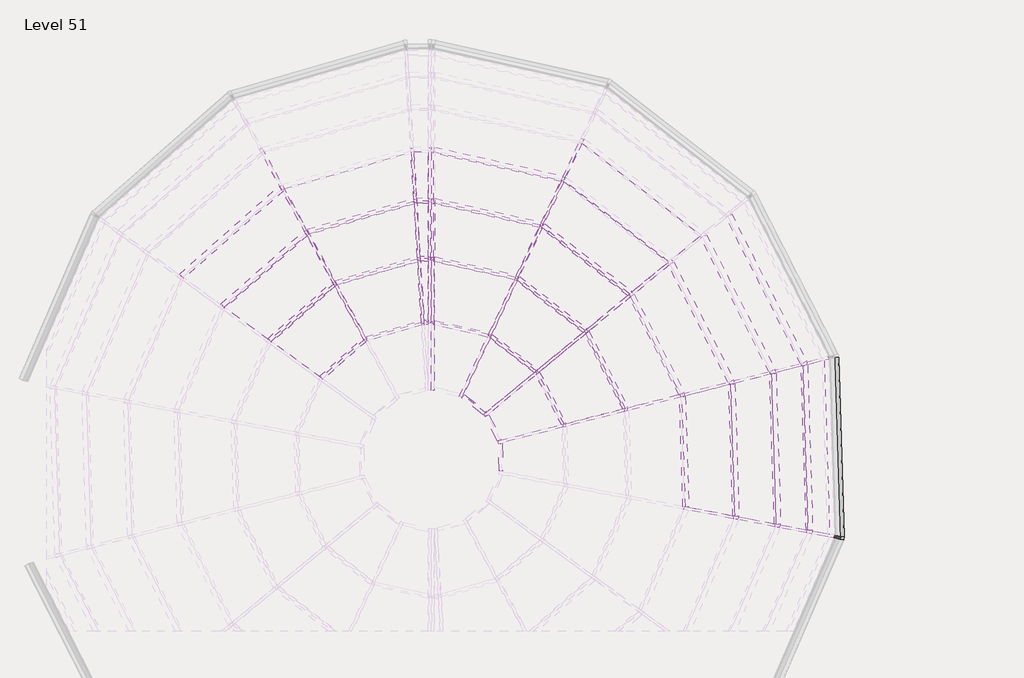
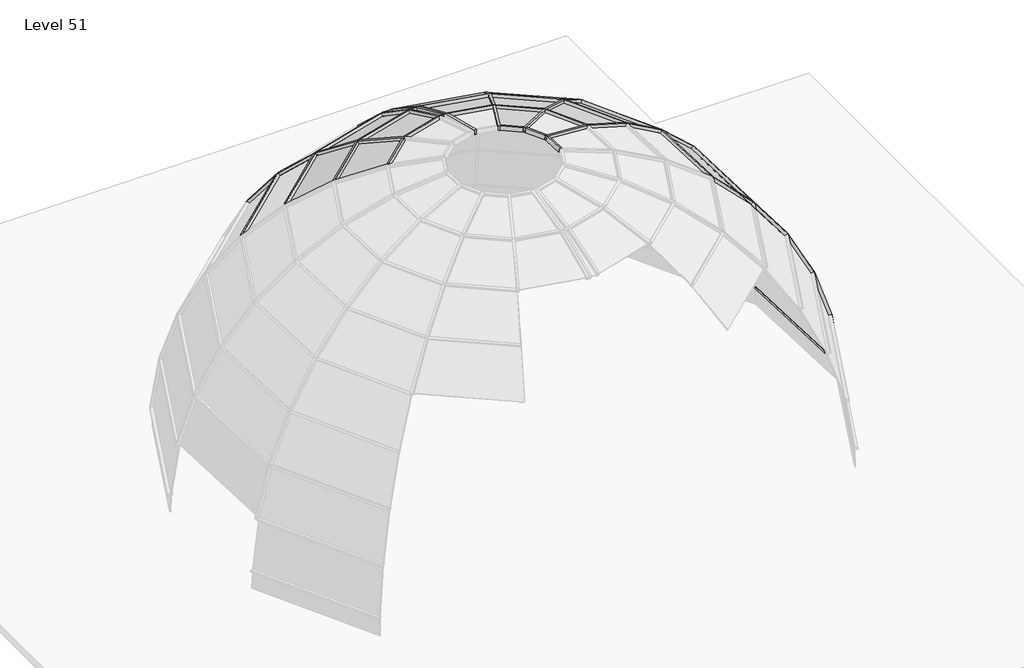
# One storey, part 4 of 5: 65 members, 22 plates.
"""IFC4 building model written with IfcOpenShell, lengths in millimetres."""

from ifc_helpers import new_model, si_unit, origin, place, context, project, spatial, transform, mapped, element, save
from components import member_d183bd50, member_4ad3c4be, member_d9f9b3f1, member_ae036e1e, member_bd7755a3, member_65743db0, member_8796500f, member_d21742c5, member_627e65e0, member_8f2bf440, member_7aba495a, member_8cadeb42, member_01029f2d, member_d292a8f8, member_6dba6968, member_1612663b, member_5eaec6db, member_043ce83e, member_1f719ff4, member_3d2e33c7, member_de41bbd8, member_34720ac7, member_73d42494, member_53f4afea, system_panel_glazed_b6fcacd0, system_panel_glazed_fa418351, system_panel_glazed_b3b66b1f, system_panel_glazed_ead5900b, system_panel_glazed_748e87ae, system_panel_glazed_0b4b9341, system_panel_glazed_03609b2e, system_panel_glazed_facd528d, system_panel_glazed_891999a5, system_panel_glazed_df0c418a, system_panel_glazed_cbcbf4f6, system_panel_glazed_e82b84bd, system_panel_glazed_11359935

model = new_model("IFC4")

# Units and contexts
model_context = context("Model", 3, world=origin())
ifc_project = project(units=[si_unit("LENGTHUNIT", "METRE", prefix="MILLI")], contexts=[model_context])

# Site, building, storey
site = spatial("IfcSite", under=ifc_project)
building = spatial("IfcBuilding", under=site)
storey = spatial("IfcBuildingStorey", under=building, Name="Level 51", Elevation=152400.0)

# Members
placement = place(None, origin())
member_shape = member_d183bd50(model_context)
element("IfcMember", 1, ObjectType="Rectangular Mullion : 2.5\" x 5\" rectangular", at=placement, inside=storey, context=model_context, shape_type="MappedRepresentation", body=[
    mapped(member_shape, transform((12476.5992898, -7871.4852016, 153025.5719668), x_axis=(0.07006123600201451, 0.00216421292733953, -0.9975403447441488), y_axis=(0.9970647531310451, 0.030799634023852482, 0.07009465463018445), z_axis=(0.03087557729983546, -0.9995232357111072, 0.0))),
])
member_2_shape = member_4ad3c4be(model_context)
element("IfcMember", 2, ObjectType="Rectangular Mullion : 2.5\" x 5\" rectangular", at=placement, inside=storey, context=model_context, shape_type="MappedRepresentation", body=[
    mapped(member_2_shape, transform((11082.3696806, -7604.6373542, 157327.0596321), x_axis=(0.547910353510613, 0.016925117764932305, -0.8363658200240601), y_axis=(0.8359670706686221, 0.025823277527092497, 0.5481717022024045), z_axis=(0.030875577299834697, -0.9995232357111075, 0.0))),
])
element("IfcMember", 3, ObjectType="Rectangular Mullion : 2.5\" x 5\" rectangular", at=placement, inside=storey, context=model_context, shape_type="MappedRepresentation", body=[
    mapped(member_2_shape, transform((10965.1465515, -4247.7979659, 157327.0596321), x_axis=(0.48851970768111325, 0.24867792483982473, -0.8363658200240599), y_axis=(0.7453525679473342, 0.3794170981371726, 0.5481717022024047), z_axis=(0.4536496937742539, -0.8911800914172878, 0.0))),
])
member_3_shape = member_d9f9b3f1(model_context)
element("IfcMember", 4, ObjectType="Rectangular Mullion : 2.5\" x 5\" rectangular", at=placement, inside=storey, context=model_context, shape_type="MappedRepresentation", body=[
    mapped(member_3_shape, transform((11654.2134814, -4071.2127046, 155979.2538554), x_axis=(0.35608952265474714, 0.18126516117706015, -0.9167023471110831), y_axis=(0.8169468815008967, 0.4158617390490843, 0.3995707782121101), z_axis=(0.4536496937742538, -0.8911800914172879, 0.0))),
])
element("IfcMember", 5, ObjectType="Rectangular Mullion : 2.5\" x 5\" rectangular", at=placement, inside=storey, context=model_context, shape_type="MappedRepresentation", body=[
    mapped(member_3_shape, transform((11781.0219787, -7738.3555457, 155979.2538554), x_axis=(0.39938027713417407, 0.012336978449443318, -0.9167023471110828), y_axis=(0.9162652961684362, 0.028303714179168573, 0.39957077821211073), z_axis=(0.030875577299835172, -0.9995232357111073, 0.0))),
])
member_4_shape = member_ae036e1e(model_context)
element("IfcMember", 6, ObjectType="Rectangular Mullion : 2.5\" x 5\" rectangular", at=placement, inside=storey, context=model_context, shape_type="MappedRepresentation", body=[
    mapped(member_4_shape, transform((4191.8185999, -4828.9449578, 161416.1055894), x_axis=(-0.5929825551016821, -0.7641063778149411, 0.2539943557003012), y_axis=(0.15572098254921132, 0.20065918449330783, 0.9672057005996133), z_axis=(-0.7900143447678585, 0.613088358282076, 0.0))),
])
element("IfcMember", 7, ObjectType="Rectangular Mullion : 2.5\" x 5\" rectangular", at=placement, inside=storey, context=model_context, shape_type="MappedRepresentation", body=[
    mapped(member_4_shape, transform((4706.5997856, -5245.5566832, 161416.1055894), x_axis=(-0.8619544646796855, -0.43877256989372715, 0.25399435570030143), y_axis=(0.22635471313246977, 0.11522446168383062, 0.9672057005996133), z_axis=(-0.45364969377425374, 0.8911800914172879, 0.0))),
])
element("IfcMember", 8, ObjectType="Rectangular Mullion : 2.5\" x 5\" rectangular", at=placement, inside=storey, context=model_context, shape_type="MappedRepresentation", body=[
    mapped(member_4_shape, transform((4994.9118796, -5841.7455253, 161416.1055894), x_axis=(-0.9667445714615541, -0.029863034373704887, 0.2539943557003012), y_axis=(0.253873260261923, 0.007842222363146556, 0.9672057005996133), z_axis=(-0.030875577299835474, 0.9995232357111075, 0.0))),
])
member_5_shape = member_bd7755a3(model_context)
element("IfcMember", 9, ObjectType="Rectangular Mullion : 2.5\" x 5\" rectangular", at=placement, inside=storey, context=model_context, shape_type="MappedRepresentation", body=[
    mapped(member_5_shape, transform((3137.5375649, -543.8081974, 159578.4455769), x_axis=(-0.2202924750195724, 0.7610756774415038, -0.6101106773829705), y_axis=(-0.16963276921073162, 0.5860544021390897, 0.7923162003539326), z_axis=(0.9605706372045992, 0.27803606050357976, 0.0))),
])
element("IfcMember", 10, ObjectType="Rectangular Mullion : 2.5\" x 5\" rectangular", at=placement, inside=storey, context=model_context, shape_type="MappedRepresentation", body=[
    mapped(member_5_shape, transform((769.6329283, -1243.2734299, 159578.4455769), x_axis=(-0.5234678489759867, 0.5947658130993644, -0.6101106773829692), y_axis=(-0.40308821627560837, 0.45799009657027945, 0.7923162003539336), z_axis=(0.7506672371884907, 0.6606804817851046, 0.0))),
])
element("IfcMember", 11, ObjectType="Rectangular Mullion : 2.5\" x 5\" rectangular", at=placement, inside=storey, context=model_context, shape_type="MappedRepresentation", body=[
    mapped(member_5_shape, transform((7857.965234, -2559.7380301, 159578.4455769), x_axis=(0.48575983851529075, 0.6259411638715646, -0.6101106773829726), y_axis=(0.37405175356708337, 0.4819961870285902, 0.7923162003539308), z_axis=(0.7900143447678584, -0.6130883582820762, 0.0))),
])
element("IfcMember", 12, ObjectType="Rectangular Mullion : 2.5\" x 5\" rectangular", at=placement, inside=storey, context=model_context, shape_type="MappedRepresentation", body=[
    mapped(member_5_shape, transform((8990.0850156, -4753.94148, 159578.4455769), x_axis=(0.7060964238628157, 0.3594340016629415, -0.6101106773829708), y_axis=(0.5437184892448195, 0.2767765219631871, 0.7923162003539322), z_axis=(0.45364969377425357, -0.8911800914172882, 0.0))),
])
element("IfcMember", 13, ObjectType="Rectangular Mullion : 2.5\" x 5\" rectangular", at=placement, inside=storey, context=model_context, shape_type="MappedRepresentation", body=[
    mapped(member_5_shape, transform((9079.8337569, -7221.3630376, 159578.4455769), x_axis=(0.7919384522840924, 0.024463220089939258, -0.6101106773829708), y_axis=(0.6098197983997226, 0.018837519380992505, 0.7923162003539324), z_axis=(0.030875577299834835, -0.9995232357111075, 0.0))),
])
member_6_shape = member_65743db0(model_context)
element("IfcMember", 14, ObjectType="Rectangular Mullion : 2.5\" x 5\" rectangular", at=placement, inside=storey, context=model_context, shape_type="MappedRepresentation", body=[
    mapped(member_6_shape, transform((5899.1162754, -1056.6962021, 159578.4455769), x_axis=(0.17289756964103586, 0.7732214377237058, -0.6101106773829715), y_axis=(0.13313706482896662, 0.5954070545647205, 0.7923162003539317), z_axis=(0.9759000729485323, -0.21821789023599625, 0.0))),
])
member_7_shape = member_8796500f(model_context)
element("IfcMember", 15, ObjectType="Rectangular Mullion : 2.5\" x 5\" rectangular", at=placement, inside=storey, context=model_context, shape_type="MappedRepresentation", body=[
    mapped(member_7_shape, transform((3454.1673289, -1797.056848, 160419.4872466), x_axis=(-0.027081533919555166, 0.876700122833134, -0.48027438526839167), y_axis=(-0.014828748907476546, 0.48004540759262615, 0.8771183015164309), z_axis=(0.9995232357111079, 0.03087557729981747, 0.0))),
])
member_8_shape = member_d21742c5(model_context)
element("IfcMember", 16, ObjectType="Rectangular Mullion : 2.5\" x 5\" rectangular", at=placement, inside=storey, context=model_context, shape_type="MappedRepresentation", body=[
    mapped(member_8_shape, transform((3215.9806162, -1812.3000569, 160419.4872466), x_axis=(-0.2451950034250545, 0.8471099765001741, -0.47147014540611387), y_axis=(-0.13108570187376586, 0.45288037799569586, 0.8818820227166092), z_axis=(0.9605706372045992, 0.2780360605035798, 0.0))),
])
element("IfcMember", 17, ObjectType="Rectangular Mullion : 2.5\" x 5\" rectangular", at=placement, inside=storey, context=model_context, shape_type="MappedRepresentation", body=[
    mapped(member_8_shape, transform((1380.8783608, -2357.5462561, 160419.4872466), x_axis=(-0.5826422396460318, 0.6619999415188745, -0.47147014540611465), y_axis=(-0.31149112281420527, 0.3539171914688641, 0.8818820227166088), z_axis=(0.7506672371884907, 0.6606804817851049, 0.0))),
])
element("IfcMember", 18, ObjectType="Rectangular Mullion : 2.5\" x 5\" rectangular", at=placement, inside=storey, context=model_context, shape_type="MappedRepresentation", body=[
    mapped(member_8_shape, transform((6878.4605831, -3369.5500754, 160419.4872466), x_axis=(0.5406716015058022, 0.6966994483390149, -0.4714701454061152), y_axis=(0.289052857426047, 0.37246817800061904, 0.8818820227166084), z_axis=(0.7900143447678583, -0.6130883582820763, 0.0))),
])
element("IfcMember", 19, ObjectType="Rectangular Mullion : 2.5\" x 5\" rectangular", at=placement, inside=storey, context=model_context, shape_type="MappedRepresentation", body=[
    mapped(member_8_shape, transform((7758.95323, -5069.4401907, 160419.4872466), x_axis=(0.7859157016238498, 0.4000655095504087, -0.4714701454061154), y_axis=(0.4201648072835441, 0.21388228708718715, 0.8818820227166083), z_axis=(0.4536496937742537, -0.891180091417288, 0.0))),
])
member_9_shape = member_627e65e0(model_context)
element("IfcMember", 20, ObjectType="Rectangular Mullion : 2.5\" x 5\" rectangular", at=placement, inside=storey, context=model_context, shape_type="MappedRepresentation", body=[
    mapped(member_9_shape, transform((5357.8110736, -2206.5716686, 160419.4872466), x_axis=(0.1924424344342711, 0.8606287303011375, -0.4714701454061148), y_axis=(0.1028832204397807, 0.46010774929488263, 0.8818820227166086), z_axis=(0.9759000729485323, -0.21821789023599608, 0.0))),
])
member_10_shape = member_8f2bf440(model_context)
element("IfcMember", 21, ObjectType="Rectangular Mullion : 2.5\" x 5\" rectangular", at=placement, inside=storey, context=model_context, shape_type="MappedRepresentation", body=[
    mapped(member_10_shape, transform((3301.955843, -3202.5936978, 161037.7653816), x_axis=(-0.2633191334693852, 0.9097259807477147, -0.32103220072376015), y_axis=(-0.08925852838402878, 0.30837410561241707, 0.9470682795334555), z_axis=(0.960570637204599, 0.2780360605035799, 0.0))),
])
element("IfcMember", 22, ObjectType="Rectangular Mullion : 2.5\" x 5\" rectangular", at=placement, inside=storey, context=model_context, shape_type="MappedRepresentation", body=[
    mapped(member_10_shape, transform((2050.8161546, -3578.8126071, 161037.7653816), x_axis=(-0.6257095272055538, 0.7109331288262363, -0.32103220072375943), y_axis=(-0.2120997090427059, 0.2409883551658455, 0.9470682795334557), z_axis=(0.7506672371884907, 0.660680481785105, 0.0))),
])
element("IfcMember", 23, ObjectType="Rectangular Mullion : 2.5\" x 5\" rectangular", at=placement, inside=storey, context=model_context, shape_type="MappedRepresentation", body=[
    mapped(member_10_shape, transform((6409.6070125, -5415.2333845, 161037.7653816), x_axis=(0.8440083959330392, 0.42963723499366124, -0.3210322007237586), y_axis=(0.28609750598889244, 0.14563615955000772, 0.9470682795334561), z_axis=(0.45364969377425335, -0.8911800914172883, 0.0))),
])
element("IfcMember", 24, ObjectType="Rectangular Mullion : 2.5\" x 5\" rectangular", at=placement, inside=storey, context=model_context, shape_type="MappedRepresentation", body=[
    mapped(member_10_shape, transform((5804.9029743, -4257.121035, 161037.7653816), x_axis=(0.580636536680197, 0.7481975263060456, -0.32103220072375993), y_axis=(0.19682110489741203, 0.25362004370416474, 0.9470682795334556), z_axis=(0.7900143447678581, -0.6130883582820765, 0.0))),
])
member_11_shape = member_7aba495a(model_context)
element("IfcMember", 25, ObjectType="Rectangular Mullion : 2.5\" x 5\" rectangular", at=placement, inside=storey, context=model_context, shape_type="MappedRepresentation", body=[
    mapped(member_11_shape, transform((4764.5292371, -3466.8592589, 161037.7653816), x_axis=(0.20666724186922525, 0.92424400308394, -0.321032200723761), y_axis=(0.07005496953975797, 0.31329534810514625, 0.9470682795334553), z_axis=(0.9759000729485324, -0.2182178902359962, 0.0))),
])
member_12_shape = member_8cadeb42(model_context)
element("IfcMember", 26, ObjectType="Rectangular Mullion : 2.5\" x 5\" rectangular", at=placement, inside=storey, context=model_context, shape_type="MappedRepresentation", body=[
    mapped(member_12_shape, transform((3454.1673289, -3190.0062899, 161037.7653816), x_axis=(-0.02916772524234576, 0.9442355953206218, -0.32797619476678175), y_axis=(-0.010126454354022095, 0.3278198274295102, 0.944685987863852), z_axis=(0.9995232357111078, 0.03087557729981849, 0.0))),
])
member_13_shape = member_01029f2d(model_context)
element("IfcMember", 27, ObjectType="Rectangular Mullion : 2.5\" x 5\" rectangular", at=placement, inside=storey, context=model_context, shape_type="MappedRepresentation", body=[
    mapped(member_13_shape, transform((234.058897, -266.9461516, 158538.0026411), x_axis=(-0.4494061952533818, 0.5106167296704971, -0.7330106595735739), y_axis=(-0.48428583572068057, 0.5502470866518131, 0.6802171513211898), z_axis=(0.7506672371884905, 0.6606804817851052, 0.0))),
])
element("IfcMember", 28, ObjectType="Rectangular Mullion : 2.5\" x 5\" rectangular", at=placement, inside=storey, context=model_context, shape_type="MappedRepresentation", body=[
    mapped(member_13_shape, transform((10068.8042639, -4477.5011053, 158538.0026411), x_axis=(0.6061959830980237, 0.3085803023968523, -0.7330106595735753), y_axis=(0.6532445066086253, 0.3325300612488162, 0.6802171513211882), z_axis=(0.45364969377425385, -0.8911800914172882, 0.0))),
])
element("IfcMember", 29, ObjectType="Rectangular Mullion : 2.5\" x 5\" rectangular", at=placement, inside=storey, context=model_context, shape_type="MappedRepresentation", body=[
    mapped(member_13_shape, transform((10173.5586901, -7430.6959496, 158538.0026411), x_axis=(0.6798928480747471, 0.021002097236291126, -0.7330106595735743), y_axis=(0.7326611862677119, 0.022632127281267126, 0.6802171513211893), z_axis=(0.030875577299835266, -0.9995232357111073, 0.0))),
])
member_14_shape = member_d292a8f8(model_context)
element("IfcMember", 30, ObjectType="Rectangular Mullion : 2.5\" x 5\" rectangular", at=placement, inside=storey, context=model_context, shape_type="MappedRepresentation", body=[
    mapped(member_14_shape, transform((3454.1673289, -526.1418588, 159578.4455769), x_axis=(-0.02424313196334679, 0.7848136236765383, -0.619257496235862), y_axis=(-0.019119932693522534, 0.618962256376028, 0.7851879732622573), z_axis=(0.9995232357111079, 0.03087557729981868, 0.0))),
])
member_15_shape = member_6dba6968(model_context)
element("IfcMember", 31, ObjectType="Rectangular Mullion : 2.5\" x 5\" rectangular", at=placement, inside=storey, context=model_context, shape_type="MappedRepresentation", body=[
    mapped(member_15_shape, transform((6373.408587, -49.1738447, 158538.0026411), x_axis=(0.14843555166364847, 0.6638239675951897, -0.733010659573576), y_axis=(0.15995603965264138, 0.7153451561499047, 0.6802171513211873), z_axis=(0.9759000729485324, -0.21821789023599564, 0.0))),
])
member_16_shape = member_1612663b(model_context)
element("IfcMember", 32, ObjectType="Rectangular Mullion : 2.5\" x 5\" rectangular", at=placement, inside=storey, context=model_context, shape_type="MappedRepresentation", body=[
    mapped(member_16_shape, transform((2074.6498393, -3557.8360018, 161037.7653816), x_axis=(0.8767485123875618, 0.48094910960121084, 0.0), y_axis=(-0.19511831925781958, 0.3556918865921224, 0.9140088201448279), z_axis=(0.4395917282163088, -0.8013558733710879, 0.40569431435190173))),
])
element("IfcMember", 33, ObjectType="Rectangular Mullion : 2.5\" x 5\" rectangular", at=placement, inside=storey, context=model_context, shape_type="MappedRepresentation", body=[
    mapped(member_16_shape, transform((1404.7120455, -2336.5696508, 160419.4872466), x_axis=(0.8767485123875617, 0.48094910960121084, 0.0), y_axis=(-0.26541879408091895, 0.48384647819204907, 0.8339337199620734), z_axis=(0.4010796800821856, -0.7311501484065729, 0.5518646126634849))),
])
element("IfcMember", 34, ObjectType="Rectangular Mullion : 2.5\" x 5\" rectangular", at=placement, inside=storey, context=model_context, shape_type="MappedRepresentation", body=[
    mapped(member_16_shape, transform((793.4666131, -1222.2968246, 159578.4455769), x_axis=(0.8767485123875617, 0.4809491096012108, 0.0), y_axis=(-0.32834652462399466, 0.5985608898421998, 0.7306937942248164), z_axis=(0.35142652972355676, -0.6406346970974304, 0.6827053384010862))),
])
element("IfcMember", 35, ObjectType="Rectangular Mullion : 2.5\" x 5\" rectangular", at=placement, inside=storey, context=model_context, shape_type="MappedRepresentation", body=[
    mapped(member_16_shape, transform((257.8925818, -245.9695463, 158538.0026411), x_axis=(0.8767485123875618, 0.48094910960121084, 0.0), y_axis=(-0.3821535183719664, 0.6966486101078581, 0.6071568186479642), z_axis=(0.2920115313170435, -0.5323238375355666, 0.7945820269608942))),
])
element("IfcMember", 36, ObjectType="Rectangular Mullion : 2.5\" x 5\" rectangular", at=placement, inside=storey, context=model_context, shape_type="MappedRepresentation", body=[
    mapped(member_16_shape, transform((3332.4539608, -3193.7660529, 161037.7653816), x_axis=(0.9980933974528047, 0.061721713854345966, 0.0), y_axis=(-0.025040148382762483, 0.4049208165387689, 0.914008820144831), z_axis=(0.056414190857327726, -0.9122661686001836, 0.4056943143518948))),
])
element("IfcMember", 37, ObjectType="Rectangular Mullion : 2.5\" x 5\" rectangular", at=placement, inside=storey, context=model_context, shape_type="MappedRepresentation", body=[
    mapped(member_16_shape, transform((3246.4787339, -1803.472412, 160419.4872466), x_axis=(0.9980933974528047, 0.061721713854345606, 0.0), y_axis=(-0.03406202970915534, 0.5508124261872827, 0.8339337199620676), z_axis=(0.051471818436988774, -0.8323437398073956, 0.5518646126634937))),
])
element("IfcMember", 38, ObjectType="Rectangular Mullion : 2.5\" x 5\" rectangular", at=placement, inside=storey, context=model_context, shape_type="MappedRepresentation", body=[
    mapped(member_16_shape, transform((3168.0356826, -534.9805525, 159578.4455769), x_axis=(0.9980933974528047, 0.06172171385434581, 0.0), y_axis=(-0.04213774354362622, 0.6814036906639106, 0.730693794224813), z_axis=(0.045099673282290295, -0.729300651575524, 0.6827053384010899))),
])
element("IfcMember", 39, ObjectType="Rectangular Mullion : 2.5\" x 5\" rectangular", at=placement, inside=storey, context=model_context, shape_type="MappedRepresentation", body=[
    mapped(member_16_shape, transform((5829.9859298, -4276.5865903, 161037.7653816), x_axis=(0.6371882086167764, -0.7707082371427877, 0.0), y_axis=(0.31267194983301, 0.2585036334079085, 0.9140088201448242), z_axis=(-0.704434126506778, -0.5823956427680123, 0.4056943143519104))),
])
element("IfcMember", 40, ObjectType="Rectangular Mullion : 2.5\" x 5\" rectangular", at=placement, inside=storey, context=model_context, shape_type="MappedRepresentation", body=[
    mapped(member_16_shape, transform((6903.5435386, -3389.0156308, 160419.4872466), x_axis=(0.6371882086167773, -0.770708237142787, 0.0), y_axis=(0.42532660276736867, 0.35164162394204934, 0.8339337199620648), z_axis=(-0.6427195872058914, -0.5313727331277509, 0.551864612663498))),
])
element("IfcMember", 41, ObjectType="Rectangular Mullion : 2.5\" x 5\" rectangular", at=placement, inside=storey, context=model_context, shape_type="MappedRepresentation", body=[
    mapped(member_16_shape, transform((7883.0481895, -2579.2035855, 159578.4455769), x_axis=(0.6371882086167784, -0.770708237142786, 0.0), y_axis=(0.5261666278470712, 0.4350117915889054, 0.7306937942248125), z_axis=(-0.5631517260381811, -0.4655894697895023, 0.6827053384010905))),
])
element("IfcMember", 42, ObjectType="Rectangular Mullion : 2.5\" x 5\" rectangular", at=placement, inside=storey, context=model_context, shape_type="MappedRepresentation", body=[
    mapped(member_16_shape, transform((6424.0103903, -5443.5283524, 161037.7653816), x_axis=(0.24824532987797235, -0.968697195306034, 0.0), y_axis=(0.3929949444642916, 0.10071171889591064, 0.9140088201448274), z_axis=(-0.8853977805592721, -0.22689842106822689, 0.40569431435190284))),
])
element("IfcMember", 43, ObjectType="Rectangular Mullion : 2.5\" x 5\" rectangular", at=placement, inside=storey, context=model_context, shape_type="MappedRepresentation", body=[
    mapped(member_16_shape, transform((7773.3566078, -5097.7351586, 160419.4872466), x_axis=(0.24824532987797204, -0.968697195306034, 0.0), y_axis=(0.5345897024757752, 0.1369978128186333, 0.8339337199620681), z_axis=(-0.8078292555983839, -0.2070201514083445, 0.551864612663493))),
])
element("IfcMember", 44, ObjectType="Rectangular Mullion : 2.5\" x 5\" rectangular", at=placement, inside=storey, context=model_context, shape_type="MappedRepresentation", body=[
    mapped(member_16_shape, transform((9004.4883934, -4782.2364479, 159578.4455769), x_axis=(0.24824532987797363, -0.9686971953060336, 0.0), y_axis=(0.6613347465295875, 0.1694784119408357, 0.7306937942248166), z_axis=(-0.7078210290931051, -0.1813913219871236, 0.6827053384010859))),
])
element("IfcMember", 45, ObjectType="Rectangular Mullion : 2.5\" x 5\" rectangular", at=placement, inside=storey, context=model_context, shape_type="MappedRepresentation", body=[
    mapped(member_16_shape, transform((10083.2076417, -4505.7960732, 158538.0026411), x_axis=(0.2482453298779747, -0.9686971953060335, 0.0), y_axis=(0.7697093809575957, 0.19725127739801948, 0.6071568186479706), z_axis=(-0.5881511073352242, -0.15072384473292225, 0.7945820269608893))),
])
element("IfcMember", 46, ObjectType="Rectangular Mullion : 2.5\" x 5\" rectangular", at=placement, inside=storey, context=model_context, shape_type="MappedRepresentation", body=[
    mapped(member_16_shape, transform((10979.5499293, -4276.0929338, 157327.0596321), x_axis=(0.24824532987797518, -0.9686971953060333, 0.0), y_axis=(0.8567031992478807, 0.21954494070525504, 0.46675437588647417), z_axis=(-0.45214365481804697, -0.11586959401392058, 0.8843869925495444))),
])
element("IfcMember", 47, ObjectType="Rectangular Mullion : 2.5\" x 5\" rectangular", at=placement, inside=storey, context=model_context, shape_type="MappedRepresentation", body=[
    mapped(member_16_shape, transform((11668.6168592, -4099.5076725, 155979.2538554), x_axis=(0.24824532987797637, -0.9686971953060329, 0.0), y_axis=(0.9198997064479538, 0.23574013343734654, 0.3133865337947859), z_axis=(-0.30357665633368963, -0.07779674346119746, 0.9496256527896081))),
])
element("IfcMember", 48, ObjectType="Rectangular Mullion : 2.5\" x 5\" rectangular", at=placement, inside=storey, context=model_context, shape_type="MappedRepresentation", body=[
    mapped(member_16_shape, transform((9080.8140565, -7253.0979003, 159578.4455769), x_axis=(-0.18798237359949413, -0.9821724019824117, 0.0), y_axis=(0.6705343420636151, -0.12833656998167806, 0.7306937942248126), z_axis=(-0.7176672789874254, 0.1373575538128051, 0.6827053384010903))),
])
element("IfcMember", 49, ObjectType="Rectangular Mullion : 2.5\" x 5\" rectangular", at=placement, inside=storey, context=model_context, shape_type="MappedRepresentation", body=[
    mapped(member_16_shape, transform((10174.5389897, -7462.4308123, 158538.0026411), x_axis=(-0.1879823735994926, -0.9821724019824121, 0.0), y_axis=(0.7804165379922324, -0.14936741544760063, 0.6071568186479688), z_axis=(-0.5963326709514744, 0.11413477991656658, 0.7945820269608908))),
])
element("IfcMember", 50, ObjectType="Rectangular Mullion : 2.5\" x 5\" rectangular", at=placement, inside=storey, context=model_context, shape_type="MappedRepresentation", body=[
    mapped(member_16_shape, transform((11083.3499802, -7636.3722169, 157327.0596321), x_axis=(-0.18798237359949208, -0.9821724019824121, 0.0), y_axis=(0.8686204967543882, -0.16624916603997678, 0.46675437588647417), z_axis=(-0.458433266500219, 0.08774159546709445, 0.8843869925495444))),
])
element("IfcMember", 51, ObjectType="Rectangular Mullion : 2.5\" x 5\" rectangular", at=placement, inside=storey, context=model_context, shape_type="MappedRepresentation", body=[
    mapped(member_16_shape, transform((11782.0022783, -7770.0904084, 155979.2538554), x_axis=(-0.18798237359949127, -0.9821724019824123, 0.0), y_axis=(0.9326961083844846, -0.1785128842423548, 0.3133865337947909), z_axis=(-0.3077996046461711, 0.058911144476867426, 0.9496256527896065))),
])
element("IfcMember", 52, ObjectType="Rectangular Mullion : 2.5\" x 5\" rectangular", at=placement, inside=storey, context=model_context, shape_type="MappedRepresentation", body=[
    mapped(member_16_shape, transform((4795.5140645, -3473.7876769, 161037.7653816), x_axis=(0.9047619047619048, -0.42591770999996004, 0.0), y_axis=(0.17279239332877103, 0.3670567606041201, 0.9140088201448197), z_axis=(-0.3892925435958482, -0.8269603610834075, 0.4056943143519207))),
])
element("IfcMember", 53, ObjectType="Rectangular Mullion : 2.5\" x 5\" rectangular", at=placement, inside=storey, context=model_context, shape_type="MappedRepresentation", body=[
    mapped(member_16_shape, transform((5388.7959009, -2213.5000866, 160419.4872466), x_axis=(0.9047619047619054, -0.4259177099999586, 0.0), y_axis=(0.23504891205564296, 0.4993060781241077, 0.8339337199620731), z_axis=(-0.3551871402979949, -0.7545114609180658, 0.5518646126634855))),
])
element("IfcMember", 54, ObjectType="Rectangular Mullion : 2.5\" x 5\" rectangular", at=placement, inside=storey, context=model_context, shape_type="MappedRepresentation", body=[
    mapped(member_16_shape, transform((5930.1011027, -1063.6246202, 159578.4455769), x_axis=(0.9047619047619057, -0.425917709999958, 0.0), y_axis=(0.2907762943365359, 0.6176857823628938, 0.7306937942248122), z_axis=(-0.3112154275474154, -0.6611039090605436, 0.6827053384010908))),
])
element("IfcMember", 55, ObjectType="Rectangular Mullion : 2.5\" x 5\" rectangular", at=placement, inside=storey, context=model_context, shape_type="MappedRepresentation", body=[
    mapped(member_16_shape, transform((6404.3934143, -56.1022627, 158538.0026411), x_axis=(0.904761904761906, -0.4259177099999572, 0.0), y_axis=(0.33842655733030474, 0.7189075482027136, 0.6071568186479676), z_axis=(-0.25859884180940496, -0.5493323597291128, 0.7945820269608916))),
])
member_17_shape = member_5eaec6db(model_context)
element("IfcMember", 56, ObjectType="Rectangular Mullion : 2.5\" x 5\" rectangular", at=placement, inside=storey, context=model_context, shape_type="MappedRepresentation", body=[
    mapped(member_17_shape, transform((12251.0888758, -7859.8709926, 154532.0243606), x_axis=(-0.18798237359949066, -0.9821724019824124, 0.0), y_axis=(0.9708634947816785, -0.18581791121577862, 0.15131351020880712), z_axis=(-0.14861595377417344, 0.028444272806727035, 0.988485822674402))),
])
member_18_shape = member_043ce83e(model_context)
element("IfcMember", 57, ObjectType="Rectangular Mullion : 2.5\" x 5\" rectangular", at=placement, inside=storey, context=model_context, shape_type="MappedRepresentation", body=[
    mapped(member_18_shape, transform((4166.7356444, -4809.4794024, 161416.1055894), x_axis=(0.9047619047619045, -0.42591770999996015, 0.0), y_axis=(0.10573608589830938, 0.2246114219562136, 0.9686947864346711), z_axis=(-0.4125842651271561, -0.8764381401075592, 0.2482547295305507))),
])
element("IfcMember", 58, ObjectType="Rectangular Mullion : 2.5\" x 5\" rectangular", at=placement, inside=storey, context=model_context, shape_type="MappedRepresentation", body=[
    mapped(member_18_shape, transform((4692.1964078, -5217.2617153, 161416.1055894), x_axis=(0.6371882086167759, -0.770708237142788, 0.0), y_axis=(0.19133196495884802, 0.1581849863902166, 0.9686947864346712), z_axis=(-0.7465810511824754, -0.6172408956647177, 0.24825472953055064))),
])
element("IfcMember", 59, ObjectType="Rectangular Mullion : 2.5\" x 5\" rectangular", at=placement, inside=storey, context=model_context, shape_type="MappedRepresentation", body=[
    mapped(member_18_shape, transform((4993.93158, -5810.0106625, 161416.1055894), x_axis=(0.2482453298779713, -0.9686971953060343, 0.0), y_axis=(0.24048366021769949, 0.06162807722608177, 0.9686947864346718), z_axis=(-0.9383719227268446, -0.24047395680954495, 0.24825472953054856))),
])
member_19_shape = member_1f719ff4(model_context)
element("IfcMember", 60, ObjectType="Rectangular Mullion : 2.5\" x 5\" rectangular", at=placement, inside=storey, context=model_context, shape_type="MappedRepresentation", body=[
    mapped(member_19_shape, transform((3517.6370544, -3188.0456907, 161037.7653816), x_axis=(0.9999214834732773, 0.005083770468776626, 0.011453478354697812), y_axis=(-0.012531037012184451, 0.4056624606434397, 0.9139370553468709), z_axis=(0.0, -0.9140088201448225, 0.4056943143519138))),
])
member_20_shape = member_3d2e33c7(model_context)
element("IfcMember", 61, ObjectType="Rectangular Mullion : 2.5\" x 5\" rectangular", at=placement, inside=storey, context=model_context, shape_type="MappedRepresentation", body=[
    mapped(member_20_shape, transform((3517.6370544, -1795.0962488, 160419.4872466), x_axis=(0.9998547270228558, 0.009406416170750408, 0.014214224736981), y_axis=(-0.0170447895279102, 0.5517844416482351, 0.8338125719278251), z_axis=(0.0, -0.8339337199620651, 0.5518646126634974))),
])
member_21_shape = member_de41bbd8(model_context)
element("IfcMember", 62, ObjectType="Rectangular Mullion : 2.5\" x 5\" rectangular", at=placement, inside=storey, context=model_context, shape_type="MappedRepresentation", body=[
    mapped(member_21_shape, transform((3517.6370544, -524.1812596, 159578.4455769), x_axis=(0.999777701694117, 0.014394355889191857, 0.015406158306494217), y_axis=(-0.021084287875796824, 0.6825535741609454, 0.730531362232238), z_axis=(0.0, -0.7306937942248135, 0.6827053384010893))),
])
member_22_shape = member_34720ac7(model_context)
element("IfcMember", 63, ObjectType="Rectangular Mullion : 2.5\" x 5\" rectangular", at=placement, inside=storey, context=model_context, shape_type="MappedRepresentation", body=[
    mapped(member_22_shape, transform((3517.6370544, -3188.0456907, 161037.7653816), x_axis=(-0.9984627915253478, 0.013759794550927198, 0.0536909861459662), y_axis=(0.055426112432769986, 0.24787311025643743, 0.9672057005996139), z_axis=(0.0, 0.9686947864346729, -0.24825472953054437))),
])
member_23_shape = member_73d42494(model_context)
element("IfcMember", 64, ObjectType="Rectangular Mullion : 2.5\" x 5\" rectangular", at=placement, inside=storey, context=model_context, shape_type="MappedRepresentation", body=[
    mapped(member_23_shape, transform((3517.6370544, -1795.0962488, 160419.4872466), x_axis=(-0.9959105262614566, 0.03665246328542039, 0.08257615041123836), y_axis=(0.0903450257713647, 0.4040352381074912, 0.910271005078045), z_axis=(0.0, 0.9140088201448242, -0.4056943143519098))),
])
member_24_shape = member_53f4afea(model_context)
element("IfcMember", 65, ObjectType="Rectangular Mullion : 2.5\" x 5\" rectangular", at=placement, inside=storey, context=model_context, shape_type="MappedRepresentation", body=[
    mapped(member_24_shape, transform((3517.6370544, -524.1812596, 159578.4455769), x_axis=(-0.9924720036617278, 0.06758780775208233, 0.10213329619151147), y_axis=(0.12247171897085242, 0.5477101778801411, 0.8276558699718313), z_axis=(0.0, 0.8339337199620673, -0.5518646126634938))),
])

# Plates
system_panel_glazed_shape = system_panel_glazed_b6fcacd0(model_context)
element("IfcPlate", 66, ObjectType="System Panel : Glazed", at=placement, inside=storey, context=model_context, shape_type="MappedRepresentation", body=[
    mapped(system_panel_glazed_shape, transform((4467.1204183, -4964.8498039, 161399.9769479), x_axis=(0.7900143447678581, -0.6130883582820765, 0.0), y_axis=(-0.1557209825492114, -0.20065918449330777, -0.9672057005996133), z_axis=(0.5929825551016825, 0.7641063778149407, -0.2539943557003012))),
])
system_panel_glazed_2_shape = system_panel_glazed_fa418351(model_context)
element("IfcPlate", 67, ObjectType="System Panel : Glazed", at=placement, inside=storey, context=model_context, shape_type="MappedRepresentation", body=[
    mapped(system_panel_glazed_2_shape, transform((4178.692377, -3306.2473352, 161024.6204715), x_axis=(0.9759000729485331, -0.21821789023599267, 0.0), y_axis=(-0.09034502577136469, -0.40403523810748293, -0.9102710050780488), z_axis=(0.19863741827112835, 0.8883335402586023, -0.4140129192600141))),
])
system_panel_glazed_3_shape = system_panel_glazed_b3b66b1f(model_context)
element("IfcPlate", 68, ObjectType="System Panel : Glazed", at=placement, inside=storey, context=model_context, shape_type="MappedRepresentation", body=[
    mapped(system_panel_glazed_3_shape, transform((1564.0807369, -3968.6997254, 161024.6204715), x_axis=(0.7506672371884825, 0.6606804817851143, 0.0), y_axis=(0.2735302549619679, -0.3107859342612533, -0.9102710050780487), z_axis=(-0.6013982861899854, 0.6833106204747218, -0.4140129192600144))),
])
element("IfcPlate", 69, ObjectType="System Panel : Glazed", at=placement, inside=storey, context=model_context, shape_type="MappedRepresentation", body=[
    mapped(system_panel_glazed_3_shape, transform((2695.5163508, -3348.0394751, 161024.6204715), x_axis=(0.9605706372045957, 0.278036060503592, 0.0), y_axis=(0.1151105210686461, -0.3976886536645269, -0.9102710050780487), z_axis=(-0.2530881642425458, 0.874379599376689, -0.41401291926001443))),
])
element("IfcPlate", 70, ObjectType="System Panel : Glazed", at=placement, inside=storey, context=model_context, shape_type="MappedRepresentation", body=[
    mapped(system_panel_glazed_3_shape, transform((5330.4689278, -3852.3548466, 161024.6204715), x_axis=(0.7900143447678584, -0.6130883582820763, 0.0), y_axis=(-0.2538265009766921, -0.32707614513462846, -0.9102710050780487), z_axis=(0.5580765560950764, 0.7191271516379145, -0.41401291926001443))),
])
element("IfcPlate", 71, ObjectType="System Panel : Glazed", at=placement, inside=storey, context=model_context, shape_type="MappedRepresentation", body=[
    mapped(system_panel_glazed_3_shape, transform((6152.7542489, -4846.9464942, 161024.6204715), x_axis=(0.4536496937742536, -0.8911800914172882, 0.0), y_axis=(-0.36896007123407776, -0.18781683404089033, -0.9102710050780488), z_axis=(0.8112153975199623, 0.41294416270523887, -0.41401291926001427))),
])
system_panel_glazed_4_shape = system_panel_glazed_ead5900b(model_context)
element("IfcPlate", 72, ObjectType="System Panel : Glazed", at=placement, inside=storey, context=model_context, shape_type="MappedRepresentation", body=[
    mapped(system_panel_glazed_4_shape, transform((3408.2758219, -3162.3925499, 161024.879455), x_axis=(0.9995232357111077, 0.03087557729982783, 0.0), y_axis=(0.01253103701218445, -0.40566246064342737, -0.9139370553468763), z_axis=(-0.028218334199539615, 0.9135013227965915, -0.4058559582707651))),
])
system_panel_glazed_5_shape = system_panel_glazed_748e87ae(model_context)
element("IfcPlate", 73, ObjectType="System Panel : Glazed", at=placement, inside=storey, context=model_context, shape_type="MappedRepresentation", body=[
    mapped(system_panel_glazed_5_shape, transform((4474.7063165, -1982.1764289, 160401.668006), x_axis=(0.9759000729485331, -0.21821789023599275, 0.0), y_axis=(-0.12247171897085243, -0.5477101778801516, -0.8276558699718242), z_axis=(0.18060931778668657, 0.8077094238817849, -0.561235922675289))),
])
system_panel_glazed_6_shape = system_panel_glazed_0b4b9341(model_context)
element("IfcPlate", 74, ObjectType="System Panel : Glazed", at=placement, inside=storey, context=model_context, shape_type="MappedRepresentation", body=[
    mapped(system_panel_glazed_6_shape, transform((667.6982441, -2950.2271234, 160401.668006), x_axis=(0.7506672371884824, 0.6606804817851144, 0.0), y_axis=(0.37079761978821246, -0.4213014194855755, -0.8276558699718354), z_axis=(-0.54681607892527, 0.6212941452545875, -0.5612359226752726))),
])
element("IfcPlate", 75, ObjectType="System Panel : Glazed", at=placement, inside=storey, context=model_context, shape_type="MappedRepresentation", body=[
    mapped(system_panel_glazed_6_shape, transform((2318.2891376, -2044.7790852, 160401.668006), x_axis=(0.9605706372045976, 0.2780360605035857, 0.0), y_axis=(0.15604382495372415, -0.5391067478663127, -0.8276558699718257), z_axis=(-0.23011817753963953, 0.7950219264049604, -0.5612359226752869))),
])
element("IfcPlate", 76, ObjectType="System Panel : Glazed", at=placement, inside=storey, context=model_context, shape_type="MappedRepresentation", body=[
    mapped(system_panel_glazed_6_shape, transform((6162.2805009, -2780.4978034, 160401.668006), x_axis=(0.7900143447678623, -0.6130883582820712, 0.0), y_axis=(-0.34408721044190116, -0.4433844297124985, -0.8276558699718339), z_axis=(0.5074261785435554, 0.6538600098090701, -0.5612359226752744))),
])
element("IfcPlate", 77, ObjectType="System Panel : Glazed", at=placement, inside=storey, context=model_context, shape_type="MappedRepresentation", body=[
    mapped(system_panel_glazed_6_shape, transform((7361.8685695, -4231.4543545, 160401.668006), x_axis=(0.45364969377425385, -0.891180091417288, 0.0), y_axis=(-0.5001622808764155, -0.25460450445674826, -0.8276558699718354), z_axis=(0.7375904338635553, 0.3754658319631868, -0.5612359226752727))),
])
system_panel_glazed_7_shape = system_panel_glazed_03609b2e(model_context)
element("IfcPlate", 78, ObjectType="System Panel : Glazed", at=placement, inside=storey, context=model_context, shape_type="MappedRepresentation", body=[
    mapped(system_panel_glazed_7_shape, transform((3365.3678142, -1773.3137152, 160401.9597341), x_axis=(0.9995232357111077, 0.030875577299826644, 0.0), y_axis=(0.017044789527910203, -0.5517844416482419, -0.8338125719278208), z_axis=(-0.02574444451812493, 0.833415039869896, -0.5520476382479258))),
])
system_panel_glazed_8_shape = system_panel_glazed_facd528d(model_context)
element("IfcPlate", 79, ObjectType="System Panel : Glazed", at=placement, inside=storey, context=model_context, shape_type="MappedRepresentation", body=[
    mapped(system_panel_glazed_8_shape, transform((4744.5668458, -775.0309103, 159556.4887654), x_axis=(0.9759000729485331, -0.21821789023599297, 0.0), y_axis=(-0.15090926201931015, -0.6748867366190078, -0.7223256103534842), z_axis=(0.1576243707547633, 0.7049176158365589, -0.6915531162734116))),
])
system_panel_glazed_9_shape = system_panel_glazed_891999a5(model_context)
element("IfcPlate", 80, ObjectType="System Panel : Glazed", at=placement, inside=storey, context=model_context, shape_type="MappedRepresentation", body=[
    mapped(system_panel_glazed_9_shape, transform((1974.3747138, -856.6091171, 159556.4887654), x_axis=(0.9605706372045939, 0.27803606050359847, 0.0), y_axis=(0.19227670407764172, -0.6642856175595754, -0.7223256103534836), z_axis=(-0.20083256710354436, 0.6938447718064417, -0.6915531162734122))),
])
element("IfcPlate", 81, ObjectType="System Panel : Glazed", at=placement, inside=storey, context=model_context, shape_type="MappedRepresentation", body=[
    mapped(system_panel_glazed_9_shape, transform((6920.6351153, -1803.2960417, 159556.4887654), x_axis=(0.7900143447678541, -0.6130883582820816, 0.0), y_axis=(-0.4239831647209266, -0.5463368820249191, -0.722325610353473), z_axis=(0.4428494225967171, 0.5706475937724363, -0.6915531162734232))),
])
element("IfcPlate", 82, ObjectType="System Panel : Glazed", at=placement, inside=storey, context=model_context, shape_type="MappedRepresentation", body=[
    mapped(system_panel_glazed_9_shape, transform((9065.574129, -6016.9590786, 159556.4887654), x_axis=(0.030875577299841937, -0.9995232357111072, 0.0), y_axis=(-0.6912234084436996, -0.021352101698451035, -0.7223256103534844), z_axis=(0.7219812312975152, 0.02230222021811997, -0.6915531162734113))),
])
system_panel_glazed_10_shape = system_panel_glazed_df0c418a(model_context)
element("IfcPlate", 83, ObjectType="System Panel : Glazed", at=placement, inside=storey, context=model_context, shape_type="MappedRepresentation", body=[
    mapped(system_panel_glazed_10_shape, transform((3326.2487579, -506.8878681, 159556.764164), x_axis=(0.9995232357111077, 0.03087557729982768, 0.0), y_axis=(0.021084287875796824, -0.6825535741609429, -0.7305313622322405), z_axis=(-0.022555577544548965, 0.7301830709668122, -0.6828791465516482))),
])
system_panel_glazed_11_shape = system_panel_glazed_cbcbf4f6(model_context)
element("IfcPlate", 84, ObjectType="System Panel : Glazed", at=placement, inside=storey, context=model_context, shape_type="MappedRepresentation", body=[
    mapped(system_panel_glazed_11_shape, transform((7584.4788197, -947.8792945, 158512.550274), x_axis=(0.7900143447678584, -0.6130883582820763, 0.0), y_axis=(-0.491481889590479, -0.6333144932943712, -0.5977945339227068), z_axis=(0.3665008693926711, 0.4722662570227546, -0.8016493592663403))),
])
element("IfcPlate", 85, ObjectType="System Panel : Glazed", at=placement, inside=storey, context=model_context, shape_type="MappedRepresentation", body=[
    mapped(system_panel_glazed_11_shape, transform((10147.8442431, -5983.527425, 158512.550274), x_axis=(0.030875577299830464, -0.9995232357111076, 0.0), y_axis=(-0.8012671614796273, -0.024751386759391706, -0.5977945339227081), z_axis=(0.5975095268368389, 0.018457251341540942, -0.8016493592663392))),
])
system_panel_glazed_12_shape = system_panel_glazed_e82b84bd(model_context)
element("IfcPlate", 86, ObjectType="System Panel : Glazed", at=placement, inside=storey, context=model_context, shape_type="MappedRepresentation", body=[
    mapped(system_panel_glazed_12_shape, transform((11045.980934, -5955.783709, 157298.8335509), x_axis=(0.03087557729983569, -0.9995232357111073, 0.0), y_axis=(-0.8885865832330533, -0.02744871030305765, -0.4578869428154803), z_axis=(0.45766863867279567, 0.014137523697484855, -0.8890104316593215))),
])
system_panel_glazed_13_shape = system_panel_glazed_11359935(model_context)
element("IfcPlate", 87, ObjectType="System Panel : Glazed", at=placement, inside=storey, context=model_context, shape_type="MappedRepresentation", body=[
    mapped(system_panel_glazed_13_shape, transform((11735.037942, -5934.4985281, 155949.0324897), x_axis=(0.030875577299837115, -0.9995232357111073, 0.0), y_axis=(-0.9514002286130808, -0.029389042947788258, -0.30655160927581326), z_axis=(0.3064054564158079, 0.009464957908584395, -0.9518540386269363))),
])

save(model, "model.ifc")
